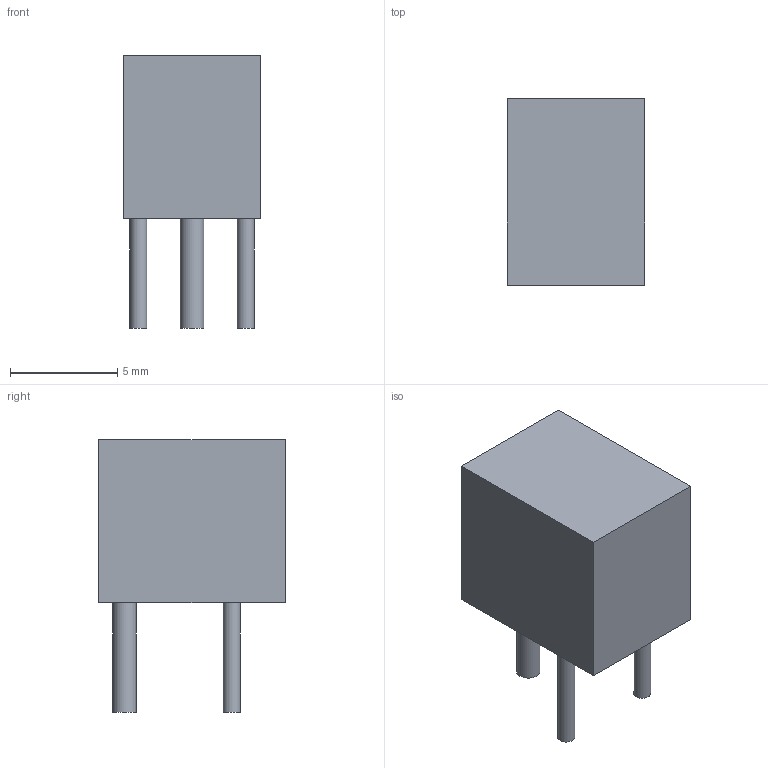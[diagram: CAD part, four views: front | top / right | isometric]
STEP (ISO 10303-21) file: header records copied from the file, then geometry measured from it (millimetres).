
FILE_DESCRIPTION(('FreeCAD Model'),'2;1');
FILE_NAME('/var/www/3D/0T/1876996.2.1.stp','2023-12-20T04:24:24',( 'Author'),(''),'Open CASCADE STEP processor 6.9','FreeCAD','Unknown' );
FILE_SCHEMA(('AUTOMOTIVE_DESIGN { 1 0 10303 214 1 1 1 1 }'));
Length unit declared in the file: millimetre
Products named in the file (3): ASSEMBLY; Body; Leads
Assembly tree (2 placements, depth 2):
  ASSEMBLY
    Body
    Leads
Bounding box: 6.4 x 8.7 x 12.7 mm (x, y, z)
Volume: 433.1 mm3; surface area: 388.1 mm2
Topology: 4 solids, 4 shells, 15 faces, 21 edges, 14 vertices
Faces by surface type: plane 12, cylinder 3
Full cylindrical faces by diameter (mm): 0.8 x2, 1.1 x1
Entity records: 674 total; most frequent: DIRECTION 105, CARTESIAN_POINT 95, LINE 51, VECTOR 51, ORIENTED_EDGE 42, PCURVE 42, DEFINITIONAL_REPRESENTATION 42, AXIS2_PLACEMENT_3D 24
